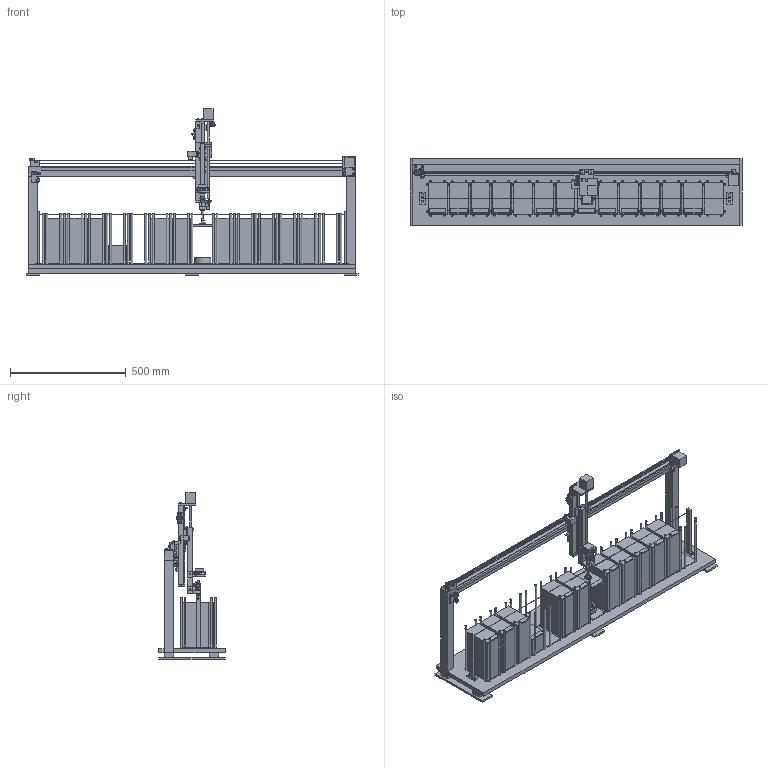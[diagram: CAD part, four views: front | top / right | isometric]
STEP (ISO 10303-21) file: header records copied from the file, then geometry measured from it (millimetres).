
FILE_DESCRIPTION(('Open CASCADE Model'),'2;1');
FILE_NAME('Open CASCADE Shape Model','2026-10-27T22:14:34',('Author'),( 'Open CASCADE'),'Open CASCADE STEP processor 7.9','Open CASCADE 7.9' ,'Unknown');
FILE_SCHEMA(('AUTOMOTIVE_DESIGN { 1 0 10303 214 1 1 1 1 }'));
Length unit declared in the file: millimetre
Products named in the file (242): slabrail_station; base_rail_0; base_rail_1; upright_L; upright_R; foot_L; foot_M; foot_R; x_beam; x_rail; bed_plywood; x_motor; x_motor_mount; x_idler_mount; x_idler_slider; x_bumper_L; x_pulley; x_idler; x_belt_lo; x_belt_hi; fx_motor_m3_-16-16; fx_motor_m3_-16+16; fx_motor_m3_+16-16; fx_motor_m3_+16+16; fx_motor_m5_-23-30; fx_motor_m5_+18-30; fx_motor_m5_-22-10; fx_motor_m5_+18-10; fx_idler_m5_-20; fx_idler_m5_+6; fx_idler_tension; fx_idler_axle; x_switch_mount; x_home_switch; fx_xsw_m2_5; fx_xsw_nut_5; fx_xsw_m2_15; fx_xsw_nut_15; fx_xsw_m5_-48; fx_xsw_m5_-37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
Assembly tree (241 placements, depth 2):
  slabrail_station
    base_rail_0
    base_rail_1
    upright_L
    upright_R
    foot_L
    foot_M
    foot_R
    x_beam
    x_rail
    bed_plywood
    x_motor
    x_motor_mount
    x_idler_mount
    x_idler_slider
    x_bumper_L
    x_pulley
    x_idler
    x_belt_lo
    x_belt_hi
    fx_motor_m3_-16-16
    fx_motor_m3_-16+16
    fx_motor_m3_+16-16
    fx_motor_m3_+16+16
    fx_motor_m5_-23-30
    fx_motor_m5_+18-30
    fx_motor_m5_-22-10
    fx_motor_m5_+18-10
    fx_idler_m5_-20
    fx_idler_m5_+6
    fx_idler_tension
    fx_idler_axle
    x_switch_mount
    x_home_switch
    fx_xsw_m2_5
    fx_xsw_nut_5
    fx_xsw_m2_15
    fx_xsw_nut_15
    fx_xsw_m5_-48
    fx_xsw_m5_-37
    pad_0
    pad_1
    pad_2
    pad_3
    pad_4
    pad_5
    pad_6
    pad_7
    pad_8
    pad_9
    pad_10
    pad_11
    pad_12
    rod_00
    rod_01
    rod_02
    rod_03
    rod_04
    rod_05
    rod_06
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Bounding box: 1436 x 289.5 x 720 mm (x, y, z)
Volume: 41607973.3 mm3; surface area: 4531602.8 mm2
Topology: 243 solids, 243 shells, 1681 faces, 3320 edges, 2211 vertices
Faces by surface type: plane 1349, cylinder 331, cone 1
Full cylindrical faces by diameter (mm): 1.2 x1, 1.8 x4, 2 x2, 2.35 x4, 2.5 x6, 3 x4, 3.2 x4, 3.4 x33, 3.8 x4, 4.5 x5, 4.6 x4, 5.2 x1, 5.3 x2, 5.5 x55, 6 x1, 6.2 x1, 6.4 x4, 6.5 x14, 7 x6, 7.2 x1, 8 x84, 8.083 x1, 8.5 x14, 9 x1, 9.238 x2, 9.5 x12, 10 x7, 10.4 x1, 10.5 x1, 14 x2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
Entity records: 93156 total; most frequent: CARTESIAN_POINT 15123, DIRECTION 14366, LINE 8480, VECTOR 8480, ORIENTED_EDGE 6640, PCURVE 6640, DEFINITIONAL_REPRESENTATION 6640, EDGE_CURVE 3320
